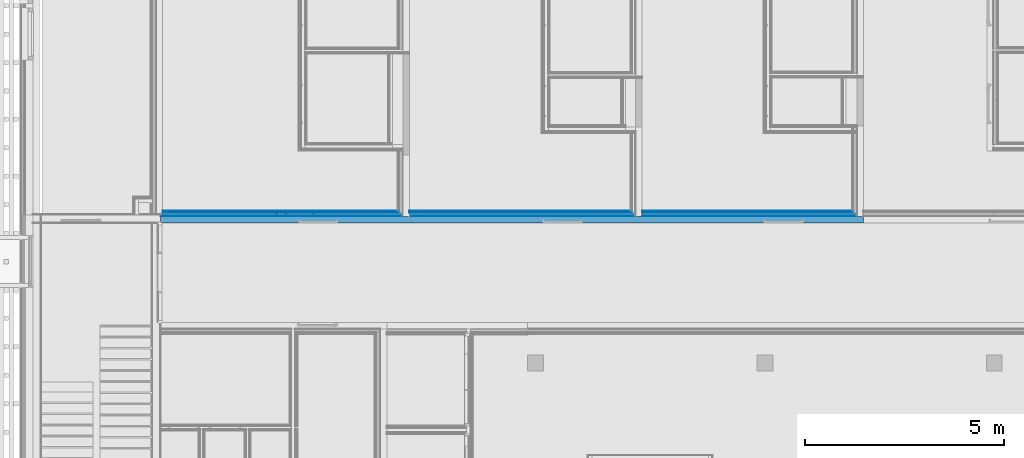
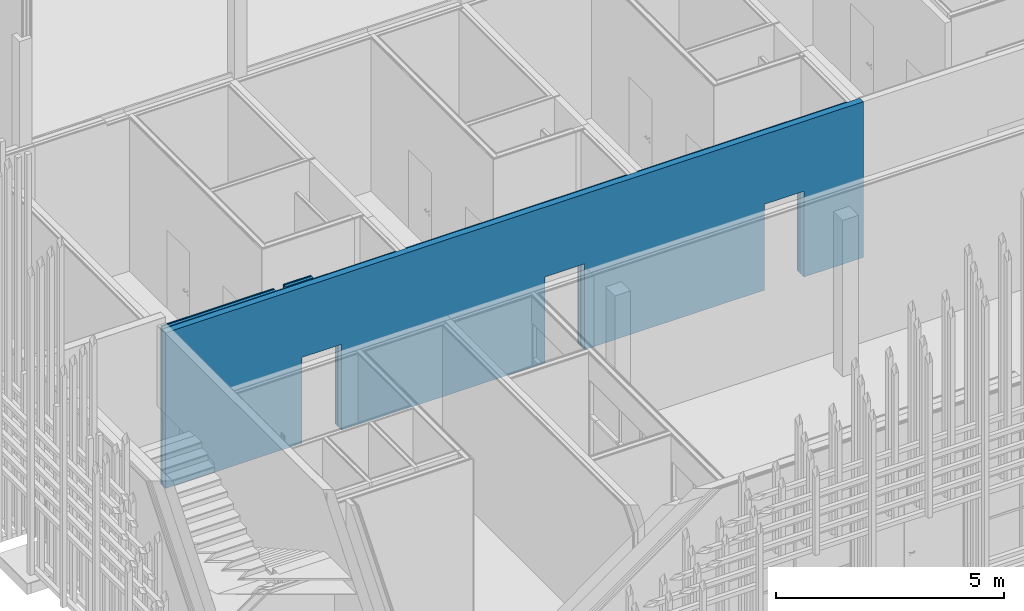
# One storey, part 112 of 260: 7 building element parts, 3 openings, 1 element without a shape of its own.
"""IFC2X3 building model written with IfcOpenShell, lengths in millimetres."""

from ifc_helpers import new_model, entity, si_unit, converted_unit, derived_unit, money_unit, direction, frame, origin_with_axes, place, context, subcontext, project, spatial, faceted_brep, material, type_object, element, aggregate, save


model = new_model("IFC2X3")

# Units and contexts
model_context = context("Model", 3, precision=0.01, world=origin_with_axes(), true_north=direction((0.0, 1.0)))
body_context = subcontext(model_context, "Body", "Model", "MODEL_VIEW")
ifc_project = project(units=[si_unit("LENGTHUNIT", "METRE", prefix="MILLI"), si_unit("AREAUNIT", "SQUARE_METRE"), si_unit("VOLUMEUNIT", "CUBIC_METRE"), converted_unit("PLANEANGLEUNIT", "DEGREE", entity("IfcPlaneAngleMeasure", 0.0174532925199), si_unit("PLANEANGLEUNIT", "RADIAN"), dimensions=[0, 0, 0, 0, 0, 0, 0]), money_unit("EUR"), converted_unit("TIMEUNIT", "Year", entity("IfcTimeMeasure", 31556926.0), si_unit("TIMEUNIT", "SECOND"), dimensions=[0, 0, 1, 0, 0, 0, 0]), si_unit("MASSUNIT", "GRAM", prefix="KILO"), si_unit("THERMODYNAMICTEMPERATUREUNIT", "DEGREE_CELSIUS"), si_unit("LUMINOUSINTENSITYUNIT", "LUMEN"), si_unit("ENERGYUNIT", "JOULE", prefix="MEGA"), derived_unit("THERMALCONDUCTANCEUNIT", [(si_unit("POWERUNIT", "WATT"), 1), (si_unit("LENGTHUNIT", "METRE"), -1), (si_unit("THERMODYNAMICTEMPERATUREUNIT", "KELVIN"), -1)]), derived_unit("SPECIFICHEATCAPACITYUNIT", [(si_unit("ENERGYUNIT", "JOULE"), 1), (si_unit("MASSUNIT", "GRAM", prefix="KILO"), -1), (si_unit("THERMODYNAMICTEMPERATUREUNIT", "KELVIN"), -1)]), derived_unit("MASSDENSITYUNIT", [(si_unit("MASSUNIT", "GRAM", prefix="KILO"), 1), (si_unit("VOLUMEUNIT", "CUBIC_METRE"), -1)])], contexts=[model_context])

# Site, building, storey
site_placement = place(None, origin_with_axes())
site = spatial("IfcSite", under=ifc_project, at=site_placement, Name="Kolde pst 67a", CompositionType="ELEMENT")
building_placement = place(site_placement, origin_with_axes())
building = spatial("IfcBuilding", under=site, at=building_placement, Name="Riigigümnaasium", CompositionType="ELEMENT")
storey_placement = place(building_placement, origin_with_axes())
storey = spatial("IfcBuildingStorey", under=building, at=storey_placement, Name="1. korrus", CompositionType="ELEMENT", Elevation=0.0)

# Wall, openings, building element parts
wall_type = type_object("IfcWallType", Name="SS-CLT-16/1_vill75+krohv 52 dB 300", PredefinedType="NOTDEFINED")
wall_placement = place(storey_placement, frame((20928.4872525, 59349.9979478, 0.0), z_axis=(0.0, 0.0, 1.0), x_axis=(-1.0, 0.0, 0.0)))
wall = element("IfcWall", 1, at=wall_placement, inside=storey, type_object=wall_type, Name="Sisesein")
opening_1_placement = place(wall_placement, frame((2010.0, 0.0, 0.0), z_axis=(0.0, 0.0, 1.0), x_axis=(1.0, 0.0, 0.0)))
element("IfcOpeningElement", 2, at=opening_1_placement, cuts=wall, Name="Siseuks", context=body_context, shape_type="Brep", body=[
    faceted_brep([(-500.0, 600.0, 2300.0), (-500.0, 600.0, 0.0), (-500.0, -300.0, 0.0), (-500.0, -300.0, 2300.0), (500.0, 600.0, 2300.0), (500.0, 600.0, 0.0), (500.0, -300.0, 0.0), (500.0, -300.0, 2300.0)], [[[0, 1, 2, 3]], [[0, 4, 5, 1]], [[1, 5, 6, 2]], [[3, 2, 6, 7]], [[4, 0, 3, 7]], [[5, 4, 7, 6]]]),
])
opening_2_placement = place(wall_placement, frame((13714.0114677, 0.0, 0.0), z_axis=(0.0, 0.0, 1.0), x_axis=(1.0, 0.0, 0.0)))
element("IfcOpeningElement", 3, at=opening_2_placement, cuts=wall, Name="Siseuks", context=body_context, shape_type="Brep", body=[
    faceted_brep([(-500.0, 600.0, 2300.0), (-500.0, 600.0, 0.0), (-500.0, -300.0, 0.0), (-500.0, -300.0, 2300.0), (500.0, 600.0, 2300.0), (500.0, 600.0, 0.0), (500.0, -300.0, 0.0), (500.0, -300.0, 2300.0)], [[[0, 1, 2, 3]], [[0, 4, 5, 1]], [[1, 5, 6, 2]], [[3, 2, 6, 7]], [[4, 0, 3, 7]], [[5, 4, 7, 6]]]),
])
opening_3_placement = place(wall_placement, frame((7566.82570093, 0.0, 0.0), z_axis=(0.0, 0.0, 1.0), x_axis=(1.0, 0.0, 0.0)))
element("IfcOpeningElement", 4, at=opening_3_placement, cuts=wall, Name="Siseuks", context=body_context, shape_type="Brep", body=[
    faceted_brep([(-500.0, 600.0, 2300.0), (-500.0, 600.0, 0.0), (-500.0, -300.0, 0.0), (-500.0, -300.0, 2300.0), (500.0, 600.0, 2300.0), (500.0, 600.0, 0.0), (500.0, -300.0, 0.0), (500.0, -300.0, 2300.0)], [[[0, 1, 2, 3]], [[0, 4, 5, 1]], [[1, 5, 6, 2]], [[3, 2, 6, 7]], [[4, 0, 3, 7]], [[5, 4, 7, 6]]]),
])
ifc_material_1 = material(Name="_KANDETARIND - CLT ristkihtliimpuit vastavalt EK osale, CLT paigaldusvuugid teibitakse ROTHOBLAAS teibiga")
building_element_part_1_placement = place(wall_placement, origin_with_axes())
building_element_part_1 = element("IfcBuildingElementPart", 5, at=building_element_part_1_placement, material=ifc_material_1, Name="_KANDETARIND - CLT ristkihtliimpuit vastavalt EK osale, CLT paigaldusvuugid teibitakse ROTHOBLAAS teibiga", context=body_context, shape_type="Brep", body=[
    faceted_brep([(7066.82570093, -160.0, 0.0), (7066.82570093, -159.999884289, 2300.0), (8066.82570093, -159.999884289, 2300.0), (8066.82570093, -160.0, 0.0), (13214.0114677, -160.0, 0.0), (13214.0114677, -159.999884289, 2300.0), (14214.0114677, -159.999884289, 2300.0), (14214.0114677, -160.0, 0.0), (17678.5468289, -160.0, 0.0), (17678.5468286, -160.0, 4170.0), (14768.4893319, -159.999884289, 4170.0), (0.0, -159.999884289, 4170.0), (0.0, -160.0, 0.0), (1510.0, -160.0, 0.0), (1510.0, -159.999884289, 2300.0), (2510.0, -159.999884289, 2300.0), (2510.0, -160.0, 0.0), (7066.82570093, 0.0, 0.0), (7066.82570093, 0.0, 2300.0), (8066.82570093, 0.0, 2300.0), (8066.82570093, 0.0, 0.0), (13214.0114677, 0.0, 0.0), (13214.0114677, 0.0, 2300.0), (14214.0114677, 0.0, 2300.0), (14214.0114677, 0.0, 0.0), (17678.5468289, 0.0, 0.0), (17678.5468287, 0.0, 4170.0), (0.0, 0.0, 4170.0), (0.0, 0.0, 0.0), (1510.0, 0.0, 0.0), (1510.0, 0.0, 2300.0), (2510.0, 0.0, 2300.0), (2510.0, 0.0, 0.0)], [[[0, 1, 2, 3, 4, 5, 6, 7, 8, 9, 10, 11, 12, 13, 14, 15, 16]], [[17, 18, 1, 0]], [[18, 19, 2, 1]], [[19, 20, 3, 2]], [[21, 4, 3, 20]], [[22, 5, 4, 21]], [[23, 6, 5, 22]], [[24, 7, 6, 23]], [[8, 7, 24, 25]], [[9, 8, 25, 26]], [[26, 27, 11, 10, 9]], [[27, 28, 12, 11]], [[29, 13, 12, 28]], [[14, 13, 29, 30]], [[15, 14, 30, 31]], [[16, 15, 31, 32]], [[16, 32, 17, 0]], [[20, 19, 18, 17, 32, 31, 30, 29, 28, 27, 26, 25, 24, 23, 22, 21]]]),
])
ifc_material_2 = material(Name="_ÕHKVAHE")
building_element_part_2_placement = place(wall_placement, origin_with_axes())
building_element_part_2 = element("IfcBuildingElementPart", 6, at=building_element_part_2_placement, material=ifc_material_2, Name="_ÕHKVAHE", context=body_context, shape_type="Brep", body=[
    faceted_brep([(13214.0114677, -175.0, 2300.0), (14214.0114677, -175.0, 2300.0), (14214.0114677, -175.0, 0.0), (17678.5468289, -175.0, 0.0), (17678.5468285, -175.0, 4170.0), (14768.496801, -175.0, 4170.0), (14768.496801, -175.0, 4080.0), (14528.489363, -175.0, 4080.0), (14528.489363, -175.0, 4190.0), (13828.4898943, -175.0, 4190.0), (13828.4898943, -175.0, 4080.0), (11581.9990342, -175.0, 4080.0), (11581.9990342, -175.0, 0.0), (13214.0114677, -175.0, 0.0), (14214.0114677, -159.999884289, 2300.0), (13214.0114677, -159.999884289, 2300.0), (14214.0114677, -160.0, 0.0), (17678.5468289, -160.0, 0.0), (17678.5468286, -160.0, 4170.0), (14768.496801, -159.999884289, 4170.0), (14768.496801, -159.999884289, 4080.0), (14528.489363, -159.999884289, 4080.0), (14528.489363, -159.999884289, 4190.0), (13828.4898943, -159.999884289, 4190.0), (13828.4898943, -159.999884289, 4080.0), (11581.9990342, -159.999884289, 4080.0), (11581.9990342, -160.0, 0.0), (13214.0114677, -160.0, 0.0)], [[[0, 1, 2, 3, 4, 5, 6, 7, 8, 9, 10, 11, 12, 13]], [[14, 1, 0, 15]], [[16, 2, 1, 14]], [[3, 2, 16, 17]], [[18, 4, 3, 17]], [[19, 5, 4, 18]], [[6, 5, 19, 20]], [[7, 6, 20, 21]], [[22, 8, 7, 21]], [[8, 22, 23, 9]], [[10, 9, 23, 24]], [[25, 11, 10, 24]], [[11, 25, 26, 12]], [[26, 27, 13, 12]], [[15, 0, 13, 27]], [[14, 15, 27, 26, 25, 24, 23, 22, 21, 20, 19, 18, 17, 16]]]),
    faceted_brep([(2510.0, -175.0, 2300.0), (2510.0, -175.0, 0.0), (5568.48725254, -175.0, 0.0), (5568.48725254, -175.0, 4080.0), (160.0, -175.0, 4080.0), (160.0, -175.0, 2.16348534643e-05), (1510.0, -175.0, 0.0), (1510.0, -175.0, 2300.0), (2510.0, -160.0, 2300.0), (2510.0, -160.0, 0.0), (5568.48725254, -160.0, 0.0), (5568.48725254, -160.0, 4080.0), (160.0, -160.0, 4080.0), (160.0, -160.0, 2.17785744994e-05), (1510.0, -160.0, 0.0), (1510.0, -160.0, 2300.0)], [[[0, 1, 2, 3, 4, 5, 6, 7]], [[1, 0, 8, 9]], [[1, 9, 10, 2]], [[3, 2, 10, 11]], [[4, 3, 11, 12]], [[12, 13, 5, 4]], [[14, 6, 5, 13]], [[7, 6, 14, 15]], [[0, 7, 15, 8]], [[15, 14, 13, 12, 11, 10, 9, 8]]]),
    faceted_brep([(8066.82570093, -175.0, 2300.0), (8066.82570093, -175.0, 0.0), (11421.9990342, -175.0, 0.0), (11421.9990342, -175.0, 4080.0), (5728.48725254, -175.0, 4080.0), (5728.48725254, -175.0, 0.0), (7066.82570093, -175.0, 0.0), (7066.82570093, -175.0, 2300.0), (8066.82570093, -159.999884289, 2300.0), (8066.82570093, -160.0, 0.0), (11421.9990342, -160.0, 0.0), (11421.9990342, -159.999884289, 4080.0), (5728.48725254, -159.999884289, 4080.0), (5728.48725254, -160.0, 0.0), (7066.82570093, -160.0, 0.0), (7066.82570093, -159.999884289, 2300.0)], [[[0, 1, 2, 3, 4, 5, 6, 7]], [[1, 0, 8, 9]], [[1, 9, 10, 2]], [[3, 2, 10, 11]], [[4, 3, 11, 12]], [[12, 13, 5, 4]], [[14, 6, 5, 13]], [[7, 6, 14, 15]], [[0, 7, 15, 8]], [[15, 14, 13, 12, 11, 10, 9, 8]]]),
])
ifc_material_3 = material(Name="_KARKASS - metallkarkass CW 75/50/06 ja UW 75/40/06, samm 600, vahel mineraalvill, helineeldetegur αw = 1.0,  ISOVER ACOUSTIC 75mm või samaväärne")
building_element_part_3_placement = place(wall_placement, origin_with_axes())
building_element_part_3 = element("IfcBuildingElementPart", 7, at=building_element_part_3_placement, material=ifc_material_3, Name="_KARKASS - metallkarkass CW 75/50/06 ja UW 75/40/06, samm 600, vahel mineraalvill, helineeldetegur αw = 1.0,  ISOVER ACOUSTIC 75mm või samaväärne", context=body_context, shape_type="Brep", body=[
    faceted_brep([(17628.5495691, -250.0, 0.0), (17628.5495691, -250.0, 4170.0), (14768.496801, -250.0, 4170.0), (14768.496801, -250.0, 4080.0), (14528.489363, -250.0, 4080.0), (14528.489363, -250.0, 4190.0), (13828.4898943, -250.0, 4190.0), (13828.4898943, -250.0, 4080.0), (11591.9990342, -250.0, 4080.0), (11591.9990342, -250.0, 0.0), (13214.0114677, -250.0, 0.0), (13214.0114677, -250.0, 2300.0), (14214.0114677, -250.0, 2300.0), (14214.0114677, -250.0, 0.0), (17628.5495691, -210.0, 4170.0), (17628.5495691, -210.0, 0.0), (17678.5468286, -210.0, 4170.0), (17678.5468285, -200.000000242, 4170.0), (17678.5468285, -175.0, 4170.0), (14768.496801, -175.0, 4170.0), (14768.496801, -175.0, 4080.0), (14528.489363, -175.0, 4080.0), (14528.489363, -175.0, 4190.0), (13828.4898943, -175.0, 4190.0), (13828.4898943, -175.0, 4080.0), (11591.9990342, -175.0, 4080.0), (11591.9990342, -175.0, 0.0), (13214.0114677, -175.0, 0.0), (13214.0114677, -175.0, 2300.0), (14214.0114677, -175.0, 2300.0), (14214.0114677, -175.0, 0.0), (17678.5468289, -175.0, 0.0), (17678.5468289, -210.0, 0.0)], [[[0, 1, 2, 3, 4, 5, 6, 7, 8, 9, 10, 11, 12, 13]], [[14, 1, 0, 15]], [[14, 16, 17, 18, 19, 2, 1]], [[20, 3, 2, 19]], [[21, 4, 3, 20]], [[21, 22, 5, 4]], [[6, 5, 22, 23]], [[24, 7, 6, 23]], [[24, 25, 8, 7]], [[9, 8, 25, 26]], [[9, 26, 27, 10]], [[27, 28, 11, 10]], [[28, 29, 12, 11]], [[29, 30, 13, 12]], [[15, 0, 13, 30, 31, 32]], [[16, 14, 15, 32]], [[16, 32, 31, 18, 17]], [[30, 29, 28, 27, 26, 25, 24, 23, 22, 21, 20, 19, 18, 31]]]),
    faceted_brep([(2510.0, -250.0, 2300.0), (2510.0, -250.0, 0.0), (5568.48725254, -250.0, 0.0), (5568.48725254, -250.0, 4080.0), (170.0, -250.0, 4080.0), (170.0, -250.0, 0.0), (1510.0, -250.0, 0.0), (1510.0, -250.0, 2300.0), (2510.0, -175.0, 2300.0), (2510.0, -175.0, 0.0), (5568.48725254, -175.0, 0.0), (5568.48725254, -175.0, 4080.0), (170.0, -175.0, 4080.0), (170.0, -175.0, 0.0), (1510.0, -175.0, 0.0), (1510.0, -175.0, 2300.0)], [[[0, 1, 2, 3, 4, 5, 6, 7]], [[1, 0, 8, 9]], [[1, 9, 10, 2]], [[3, 2, 10, 11]], [[4, 3, 11, 12]], [[12, 13, 5, 4]], [[14, 6, 5, 13]], [[7, 6, 14, 15]], [[0, 7, 15, 8]], [[15, 14, 13, 12, 11, 10, 9, 8]]]),
    faceted_brep([(8066.82570093, -250.0, 2300.0), (8066.82570093, -250.0, 0.0), (11421.9990342, -250.0, 0.0), (11421.9990342, -250.0, 4080.0), (5738.48725254, -250.0, 4080.0), (5738.48725254, -250.0, 0.0), (7066.82570093, -250.0, 0.0), (7066.82570093, -250.0, 2300.0), (8066.82570093, -175.0, 2300.0), (8066.82570093, -175.0, 0.0), (11421.9990342, -175.0, 0.0), (11421.9990342, -175.0, 4080.0), (5738.48725254, -175.0, 4080.0), (5738.48725254, -175.0, 0.0), (7066.82570093, -175.0, 0.0), (7066.82570093, -175.0, 2300.0)], [[[0, 1, 2, 3, 4, 5, 6, 7]], [[1, 0, 8, 9]], [[1, 9, 10, 2]], [[3, 2, 10, 11]], [[4, 3, 11, 12]], [[12, 13, 5, 4]], [[14, 6, 5, 13]], [[7, 6, 14, 15]], [[0, 7, 15, 8]], [[15, 14, 13, 12, 11, 10, 9, 8]]]),
])
ifc_material_4 = material(Name="_PLAATMATERJAL - OSB3 plaat")
building_element_part_4_placement = place(wall_placement, origin_with_axes())
building_element_part_4 = element("IfcBuildingElementPart", 8, at=building_element_part_4_placement, material=ifc_material_4, Name="_PLAATMATERJAL - OSB3 plaat", context=body_context, shape_type="Brep", body=[
    faceted_brep([(17628.5495691, -260.0, 0.0), (17628.5495691, -260.0, 4170.0), (14768.496801, -260.0, 4170.0), (14768.496801, -260.0, 4080.0), (14528.489363, -260.0, 4080.0), (14528.489363, -260.0, 4190.0), (13828.4898943, -260.0, 4190.0), (13828.4898943, -260.0, 4080.0), (11666.9990342, -260.0, 4080.0), (11666.9990342, -260.0, 0.0), (13214.0114677, -260.0, 0.0), (13214.0114677, -260.0, 2300.0), (14214.0114677, -260.0, 2300.0), (14214.0114677, -260.0, 0.0), (17628.5495691, -250.0, 4170.0), (17628.5495691, -250.0, 0.0), (14768.496801, -250.0, 4170.0), (14768.496801, -250.0, 4080.0), (14528.489363, -250.0, 4080.0), (14528.489363, -250.0, 4190.0), (13828.4898943, -250.0, 4190.0), (13828.4898943, -250.0, 4080.0), (11666.9990342, -250.0, 4080.0), (11666.9990342, -250.0, 0.0), (13214.0114677, -250.0, 0.0), (13214.0114677, -250.0, 2300.0), (14214.0114677, -250.0, 2300.0), (14214.0114677, -250.0, 0.0)], [[[0, 1, 2, 3, 4, 5, 6, 7, 8, 9, 10, 11, 12, 13]], [[14, 1, 0, 15]], [[1, 14, 16, 2]], [[3, 2, 16, 17]], [[4, 3, 17, 18]], [[19, 5, 4, 18]], [[5, 19, 20, 6]], [[7, 6, 20, 21]], [[22, 8, 7, 21]], [[8, 22, 23, 9]], [[23, 24, 10, 9]], [[25, 11, 10, 24]], [[26, 12, 11, 25]], [[27, 13, 12, 26]], [[15, 0, 13, 27]], [[14, 15, 27, 26, 25, 24, 23, 22, 21, 20, 19, 18, 17, 16]]]),
    faceted_brep([(2510.0, -260.0, 2300.0), (2510.0, -260.0, 0.0), (5568.48725254, -260.0, 0.0), (5568.48725254, -260.0, 4080.0), (245.0, -260.0, 4080.0), (245.0, -260.0, 2.15736246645e-05), (1510.0, -260.0, 0.0), (1510.0, -260.0, 2300.0), (2510.0, -250.0, 2300.0), (2510.0, -250.0, 0.0), (5568.48725254, -250.0, 0.0), (5568.48725254, -250.0, 4080.0), (245.0, -250.0, 4080.0), (245.0, -250.0, 2.16729048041e-05), (1510.0, -250.0, 0.0), (1510.0, -250.0, 2300.0)], [[[0, 1, 2, 3, 4, 5, 6, 7]], [[1, 0, 8, 9]], [[1, 9, 10, 2]], [[3, 2, 10, 11]], [[4, 3, 11, 12]], [[12, 13, 5, 4]], [[14, 6, 5, 13]], [[7, 6, 14, 15]], [[0, 7, 15, 8]], [[15, 14, 13, 12, 11, 10, 9, 8]]]),
    faceted_brep([(8066.82570093, -260.0, 2300.0), (8066.82570093, -260.0, 0.0), (11421.9990342, -260.0, 0.0), (11421.9990342, -260.0, 4080.0), (5813.48725254, -260.0, 4080.0), (5813.48725254, -260.0, 0.0), (7066.82570093, -260.0, 0.0), (7066.82570093, -260.0, 2300.0), (8066.82570093, -250.0, 2300.0), (8066.82570093, -250.0, 0.0), (11421.9990342, -250.0, 0.0), (11421.9990342, -250.0, 4080.0), (5813.48725254, -250.0, 4080.0), (5813.48725254, -250.0, 0.0), (7066.82570093, -250.0, 0.0), (7066.82570093, -250.0, 2300.0)], [[[0, 1, 2, 3, 4, 5, 6, 7]], [[1, 0, 8, 9]], [[1, 9, 10, 2]], [[3, 2, 10, 11]], [[4, 3, 11, 12]], [[12, 13, 5, 4]], [[14, 6, 5, 13]], [[7, 6, 14, 15]], [[0, 7, 15, 8]], [[15, 14, 13, 12, 11, 10, 9, 8]]]),
])
ifc_material_5 = material(Name="_PLAATMATERJAL - tuletõkkekipsplaat, Knauf Red GKF või samaväärne")
building_element_part_5_placement = place(wall_placement, origin_with_axes())
building_element_part_5 = element("IfcBuildingElementPart", 9, at=building_element_part_5_placement, material=ifc_material_5, Name="_PLAATMATERJAL - tuletõkkekipsplaat, Knauf Red GKF või samaväärne", context=body_context, shape_type="Brep", body=[
    faceted_brep([(17628.5495691, -275.0, 0.0), (17628.5495691, -275.0, 4170.0), (14768.496801, -275.0, 4170.0), (14768.496801, -275.0, 4080.0), (14528.489363, -275.0, 4080.0), (14528.489363, -275.0, 4190.0), (13828.4898943, -275.0, 4190.0), (13828.4898943, -275.0, 4080.0), (11666.9990342, -275.0, 4080.0), (11666.9990342, -275.0, 0.0), (13214.0114677, -275.0, 0.0), (13214.0114677, -275.0, 2300.0), (14214.0114677, -275.0, 2300.0), (14214.0114677, -275.0, 0.0), (17628.5495691, -260.0, 4170.0), (17628.5495691, -260.0, 0.0), (14768.496801, -260.0, 4170.0), (14768.496801, -260.0, 4080.0), (14528.489363, -260.0, 4080.0), (14528.489363, -260.0, 4190.0), (13828.4898943, -260.0, 4190.0), (13828.4898943, -260.0, 4080.0), (11666.9990342, -260.0, 4080.0), (11666.9990342, -260.0, 0.0), (13214.0114677, -260.0, 0.0), (13214.0114677, -260.0, 2300.0), (14214.0114677, -260.0, 2300.0), (14214.0114677, -260.0, 0.0)], [[[0, 1, 2, 3, 4, 5, 6, 7, 8, 9, 10, 11, 12, 13]], [[14, 1, 0, 15]], [[1, 14, 16, 2]], [[3, 2, 16, 17]], [[4, 3, 17, 18]], [[19, 5, 4, 18]], [[5, 19, 20, 6]], [[7, 6, 20, 21]], [[22, 8, 7, 21]], [[8, 22, 23, 9]], [[23, 24, 10, 9]], [[25, 11, 10, 24]], [[26, 12, 11, 25]], [[27, 13, 12, 26]], [[15, 0, 13, 27]], [[14, 15, 27, 26, 25, 24, 23, 22, 21, 20, 19, 18, 17, 16]]]),
    faceted_brep([(2510.0, -275.0, 2300.0), (2510.0, -275.0, 0.0), (5568.48725254, -275.0, 0.0), (5568.48725254, -275.0, 4080.0), (245.0, -275.0, 4080.0), (245.0, -275.0, 2.1424704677e-05), (1510.0, -275.0, 0.0), (1510.0, -275.0, 2300.0), (2510.0, -260.0, 2300.0), (2510.0, -260.0, 0.0), (5568.48725254, -260.0, 0.0), (5568.48725254, -260.0, 4080.0), (245.0, -260.0, 4080.0), (245.0, -260.0, 2.15736246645e-05), (1510.0, -260.0, 0.0), (1510.0, -260.0, 2300.0)], [[[0, 1, 2, 3, 4, 5, 6, 7]], [[1, 0, 8, 9]], [[1, 9, 10, 2]], [[3, 2, 10, 11]], [[4, 3, 11, 12]], [[12, 13, 5, 4]], [[14, 6, 5, 13]], [[7, 6, 14, 15]], [[0, 7, 15, 8]], [[15, 14, 13, 12, 11, 10, 9, 8]]]),
    faceted_brep([(8066.82570093, -275.0, 2300.0), (8066.82570093, -275.0, 0.0), (11421.9990342, -275.0, 0.0), (11421.9990342, -275.0, 4080.0), (5813.48725254, -275.0, 4080.0), (5813.48725254, -275.0, 0.0), (7066.82570093, -275.0, 0.0), (7066.82570093, -275.0, 2300.0), (8066.82570093, -260.0, 2300.0), (8066.82570093, -260.0, 0.0), (11421.9990342, -260.0, 0.0), (11421.9990342, -260.0, 4080.0), (5813.48725254, -260.0, 4080.0), (5813.48725254, -260.0, 0.0), (7066.82570093, -260.0, 0.0), (7066.82570093, -260.0, 2300.0)], [[[0, 1, 2, 3, 4, 5, 6, 7]], [[1, 0, 8, 9]], [[1, 9, 10, 2]], [[3, 2, 10, 11]], [[4, 3, 11, 12]], [[12, 13, 5, 4]], [[14, 6, 5, 13]], [[7, 6, 14, 15]], [[0, 7, 15, 8]], [[15, 14, 13, 12, 11, 10, 9, 8]]]),
])
building_element_part_6_placement = place(wall_placement, origin_with_axes())
building_element_part_6 = element("IfcBuildingElementPart", 10, at=building_element_part_6_placement, material=ifc_material_5, Name="_PLAATMATERJAL - tuletõkkekipsplaat, Knauf Red GKF või samaväärne", context=body_context, shape_type="Brep", body=[
    faceted_brep([(17628.5495691, -290.0, 0.0), (17628.5495691, -290.0, 4170.0), (14768.496801, -290.0, 4170.0), (14768.496801, -290.0, 4080.0), (14528.489363, -290.0, 4080.0), (14528.489363, -290.0, 4190.0), (13828.4898943, -290.0, 4190.0), (13828.4898943, -290.0, 4080.0), (11666.9990342, -290.0, 4080.0), (11666.9990342, -290.0, 0.0), (13214.0114677, -290.0, 0.0), (13214.0114677, -290.0, 2300.0), (14214.0114677, -290.0, 2300.0), (14214.0114677, -290.0, 0.0), (17628.5495691, -275.0, 4170.0), (17628.5495691, -275.0, 0.0), (14768.496801, -275.0, 4170.0), (14768.496801, -275.0, 4080.0), (14528.489363, -275.0, 4080.0), (14528.489363, -275.0, 4190.0), (13828.4898943, -275.0, 4190.0), (13828.4898943, -275.0, 4080.0), (11666.9990342, -275.0, 4080.0), (11666.9990342, -275.0, 0.0), (13214.0114677, -275.0, 0.0), (13214.0114677, -275.0, 2300.0), (14214.0114677, -275.0, 2300.0), (14214.0114677, -275.0, 0.0)], [[[0, 1, 2, 3, 4, 5, 6, 7, 8, 9, 10, 11, 12, 13]], [[14, 1, 0, 15]], [[1, 14, 16, 2]], [[3, 2, 16, 17]], [[4, 3, 17, 18]], [[19, 5, 4, 18]], [[5, 19, 20, 6]], [[7, 6, 20, 21]], [[22, 8, 7, 21]], [[8, 22, 23, 9]], [[23, 24, 10, 9]], [[25, 11, 10, 24]], [[26, 12, 11, 25]], [[27, 13, 12, 26]], [[15, 0, 13, 27]], [[14, 15, 27, 26, 25, 24, 23, 22, 21, 20, 19, 18, 17, 16]]]),
    faceted_brep([(2510.0, -290.0, 2300.0), (2510.0, -290.0, 0.0), (5568.48725254, -290.0, 0.0), (5568.48725254, -290.0, 4080.0), (245.0, -290.0, 4080.0), (245.0, -290.0, 2.12757846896e-05), (1510.0, -290.0, 0.0), (1510.0, -290.0, 2300.0), (2510.0, -275.0, 2300.0), (2510.0, -275.0, 0.0), (5568.48725254, -275.0, 0.0), (5568.48725254, -275.0, 4080.0), (245.0, -275.0, 4080.0), (245.0, -275.0, 2.1424704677e-05), (1510.0, -275.0, 0.0), (1510.0, -275.0, 2300.0)], [[[0, 1, 2, 3, 4, 5, 6, 7]], [[1, 0, 8, 9]], [[1, 9, 10, 2]], [[3, 2, 10, 11]], [[4, 3, 11, 12]], [[12, 13, 5, 4]], [[14, 6, 5, 13]], [[7, 6, 14, 15]], [[0, 7, 15, 8]], [[15, 14, 13, 12, 11, 10, 9, 8]]]),
    faceted_brep([(8066.82570093, -290.0, 2300.0), (8066.82570093, -290.0, 0.0), (11421.9990342, -290.0, 0.0), (11421.9990342, -290.0, 4080.0), (5813.48725254, -290.0, 4080.0), (5813.48725254, -290.0, 0.0), (7066.82570093, -290.0, 0.0), (7066.82570093, -290.0, 2300.0), (8066.82570093, -275.0, 2300.0), (8066.82570093, -275.0, 0.0), (11421.9990342, -275.0, 0.0), (11421.9990342, -275.0, 4080.0), (5813.48725254, -275.0, 4080.0), (5813.48725254, -275.0, 0.0), (7066.82570093, -275.0, 0.0), (7066.82570093, -275.0, 2300.0)], [[[0, 1, 2, 3, 4, 5, 6, 7]], [[1, 0, 8, 9]], [[1, 9, 10, 2]], [[3, 2, 10, 11]], [[4, 3, 11, 12]], [[12, 13, 5, 4]], [[14, 6, 5, 13]], [[7, 6, 14, 15]], [[0, 7, 15, 8]], [[15, 14, 13, 12, 11, 10, 9, 8]]]),
])
ifc_material_6 = material(Name="_VIIMISTLUSKIHT - viimistlus vastavalt SA osale")
building_element_part_7_placement = place(wall_placement, origin_with_axes())
building_element_part_7 = element("IfcBuildingElementPart", 11, at=building_element_part_7_placement, material=ifc_material_6, Name="_VIIMISTLUSKIHT - viimistlus vastavalt SA osale", context=body_context, shape_type="Brep", body=[
    faceted_brep([(17628.5495691, -300.0, 0.0), (17628.5495691, -300.0, 4170.0), (14768.496801, -300.0, 4170.0), (14768.496801, -300.0, 4080.0), (14528.489363, -300.0, 4080.0), (14528.489363, -300.0, 4190.0), (13828.4898943, -300.0, 4190.0), (13828.4898943, -300.0, 4080.0), (11691.9990342, -300.0, 4080.0), (11691.9990342, -300.0, 0.0), (13214.0114677, -300.0, 0.0), (13214.0114677, -300.0, 2300.0), (14214.0114677, -300.0, 2300.0), (14214.0114677, -300.0, 0.0), (17628.5495691, -290.0, 4170.0), (17628.5495691, -290.0, 0.0), (14768.496801, -290.0, 4170.0), (14768.496801, -290.0, 4080.0), (14528.489363, -290.0, 4080.0), (14528.489363, -290.0, 4190.0), (13828.4898943, -290.0, 4190.0), (13828.4898943, -290.0, 4080.0), (11691.9990342, -290.0, 4080.0), (11691.9990342, -290.0, 0.0), (13214.0114677, -290.0, 0.0), (13214.0114677, -290.0, 2300.0), (14214.0114677, -290.0, 2300.0), (14214.0114677, -290.0, 0.0)], [[[0, 1, 2, 3, 4, 5, 6, 7, 8, 9, 10, 11, 12, 13]], [[14, 1, 0, 15]], [[1, 14, 16, 2]], [[3, 2, 16, 17]], [[4, 3, 17, 18]], [[19, 5, 4, 18]], [[5, 19, 20, 6]], [[7, 6, 20, 21]], [[22, 8, 7, 21]], [[8, 22, 23, 9]], [[23, 24, 10, 9]], [[25, 11, 10, 24]], [[26, 12, 11, 25]], [[27, 13, 12, 26]], [[15, 0, 13, 27]], [[14, 15, 27, 26, 25, 24, 23, 22, 21, 20, 19, 18, 17, 16]]]),
    faceted_brep([(2510.0, -300.0, 2300.0), (2510.0, -300.0, 0.0), (5568.48725254, -300.0, 0.0), (5568.48725254, -300.0, 4080.0), (270.0, -300.0, 4080.0), (270.0, -300.0, 0.0), (1510.0, -300.0, 0.0), (1510.0, -300.0, 2300.0), (2510.0, -290.0, 2300.0), (2510.0, -290.0, 0.0), (5568.48725254, -290.0, 0.0), (5568.48725254, -290.0, 4080.0), (270.0, -290.0, 4080.0), (270.0, -290.0, 0.0), (1510.0, -290.0, 0.0), (1510.0, -290.0, 2300.0)], [[[0, 1, 2, 3, 4, 5, 6, 7]], [[1, 0, 8, 9]], [[1, 9, 10, 2]], [[3, 2, 10, 11]], [[4, 3, 11, 12]], [[12, 13, 5, 4]], [[14, 6, 5, 13]], [[7, 6, 14, 15]], [[0, 7, 15, 8]], [[15, 14, 13, 12, 11, 10, 9, 8]]]),
    faceted_brep([(8066.82570093, -300.0, 2300.0), (8066.82570093, -300.0, 0.0), (11421.9990342, -300.0, 0.0), (11421.9990342, -300.0, 4080.0), (5838.48725254, -300.0, 4080.0), (5838.48725254, -300.0, 0.0), (7066.82570093, -300.0, 0.0), (7066.82570093, -300.0, 2300.0), (8066.82570093, -290.0, 2300.0), (8066.82570093, -290.0, 0.0), (11421.9990342, -290.0, 0.0), (11421.9990342, -290.0, 4080.0), (5838.48725254, -290.0, 4080.0), (5838.48725254, -290.0, 0.0), (7066.82570093, -290.0, 0.0), (7066.82570093, -290.0, 2300.0)], [[[0, 1, 2, 3, 4, 5, 6, 7]], [[1, 0, 8, 9]], [[1, 9, 10, 2]], [[3, 2, 10, 11]], [[4, 3, 11, 12]], [[12, 13, 5, 4]], [[14, 6, 5, 13]], [[7, 6, 14, 15]], [[0, 7, 15, 8]], [[15, 14, 13, 12, 11, 10, 9, 8]]]),
])
aggregate(wall, [building_element_part_1, building_element_part_2, building_element_part_3, building_element_part_4, building_element_part_5, building_element_part_6, building_element_part_7])

save(model, "model.ifc")
